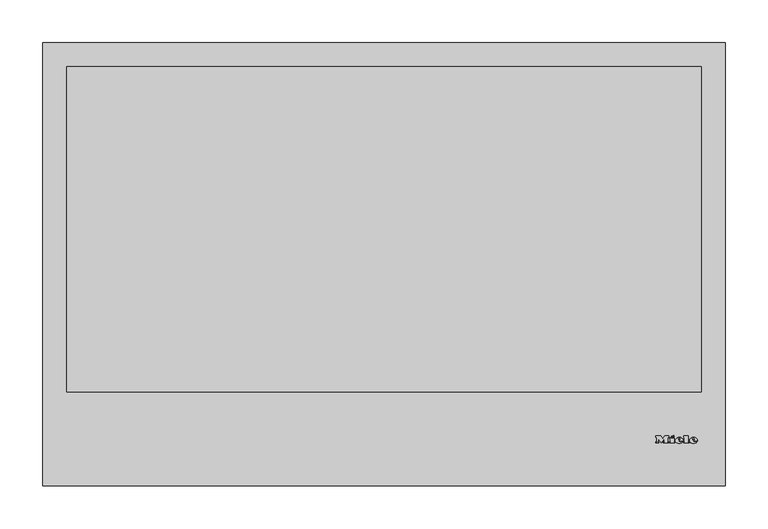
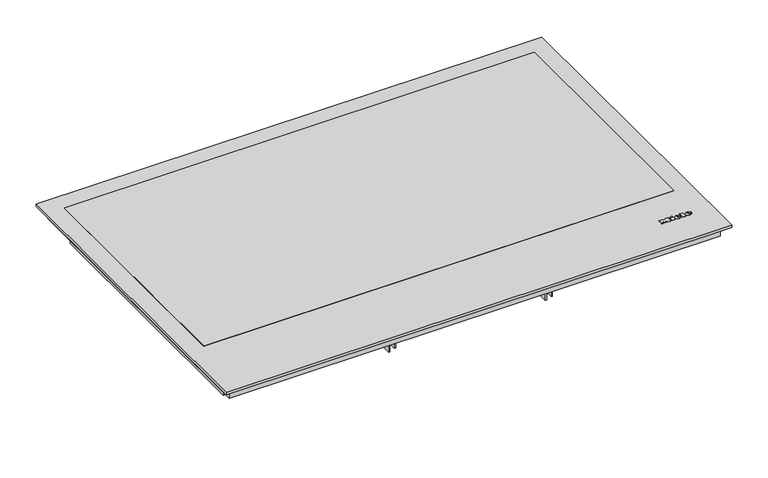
"""IFC4 building model written with IfcOpenShell, lengths in millimetres: proxy geometry, 12275750_DFS_KM7878-1FL : 26787873_DFS_12275750_KM7878-1FL."""

from ifc_helpers import new_model, si_unit, point, frame, frame_2d, origin, origin_with_axes, place, context, project, spatial, polyline, circle_curve, ellipse_curve, trimmed, segment, composite_curve, outline, extrude, source, transform, mapped, element, save
from ifc_brep_helpers import plane_surface, cylinder_surface, revolved_surface, extruded_surface, advanced_brep


def specialty_equipment_575d8ab1(model_context):
    return source(origin(), model_context, "Body", "SolidModel", [
        advanced_brep(
        [(362.06, 52.3948833, 4.4802537), (362.06, 53.2028828, 4.4811551), (367.412, 53.2028828, 4.4811551), (358.1, 53.2028828, 4.4811551), (360.3, 50.4988845, 4.4781386), (367.276, 52.3948833, 4.4802537), (364.86, 52.3948833, 4.4802537), (362.956, 51.4988838, 4.4792542), (362.06, 54.2268821, 4.4822974), (362.06, 55.0988816, 4.4832701), (363.428, 55.0988816, 4.4832701), (363.428, 54.2268821, 4.4822974), (362.06, 52.3959988, 3.4802543), (362.956, 51.4999994, 3.4792548), (364.86, 52.3959988, 3.4802543), (367.276, 52.3959988, 3.4802543), (360.3, 50.5, 3.4781393), (358.1, 53.2039983, 3.4811557), (367.412, 53.2039983, 3.4811557), (362.06, 53.2039983, 3.4811557), (362.06, 54.2279977, 3.482298), (363.428, 54.2279977, 3.482298), (363.428, 55.0999971, 3.4832707), (362.06, 55.0999971, 3.4832707)],
        [
            (0, 1),
            (1, 2),
            (2, 3, ellipse_curve(frame((362.756, 53.2028828, 4.4811551), z_axis=(0.0, -0.0011155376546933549, 0.9999993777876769), x_axis=(-1.0, 0.0, 0.0)), 4.656, 3.848)),
            (3, 4, circle_curve(frame((361.1960436, 53.4748826, 4.4814585), z_axis=(0.0, -0.0011155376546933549, 0.9999993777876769), x_axis=(0.0, -0.9999993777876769, -0.0011155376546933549)), 3.1079688)),
            (4, 5, circle_curve(frame((362.6627936, 55.5868813, 4.4838145), z_axis=(0.0, -0.0011155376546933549, 0.9999993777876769), x_axis=(0.0, -0.9999993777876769, -0.0011155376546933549)), 5.6098607)),
            (5, 6),
            (6, 7, circle_curve(frame((363.3470588, 53.1388828, 4.4810837), z_axis=(0.0, 0.0011155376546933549, -0.9999993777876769), x_axis=(0.0, -0.9999993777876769, -0.0011155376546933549)), 1.6859795)),
            (7, 0, circle_curve(frame((362.956, 52.3948833, 4.4802537), z_axis=(0.0, 0.0011155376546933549, -0.9999993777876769), x_axis=(0.0, -0.9999993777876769, -0.0011155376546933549)), 0.896)),
            (8, 9),
            (9, 10, circle_curve(frame((362.744, 55.0988816, 4.4832701), z_axis=(0.0, 0.0011155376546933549, -0.9999993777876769), x_axis=(0.0, -0.9999993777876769, -0.0011155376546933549)), 0.684)),
            (10, 11),
            (11, 8),
            (12, 13, circle_curve(frame((362.956, 52.3959988, 3.4802543), z_axis=(0.0, -0.0011155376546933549, 0.9999993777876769), x_axis=(0.0, -0.9999993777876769, -0.0011155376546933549)), 0.896)),
            (13, 14, circle_curve(frame((363.3470588, 53.1399984, 3.4810843), z_axis=(0.0, -0.0011155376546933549, 0.9999993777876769), x_axis=(0.0, -0.9999993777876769, -0.0011155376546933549)), 1.6859795)),
            (14, 15),
            (15, 16, circle_curve(frame((362.6627936, 55.5879968, 3.4838151), z_axis=(0.0, 0.0011155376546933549, -0.9999993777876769), x_axis=(0.0, -0.9999993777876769, -0.0011155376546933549)), 5.6098607)),
            (16, 17, circle_curve(frame((361.1960436, 53.4759981, 3.4814591), z_axis=(0.0, 0.0011155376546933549, -0.9999993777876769), x_axis=(0.0, -0.9999993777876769, -0.0011155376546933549)), 3.1079688)),
            (17, 18, ellipse_curve(frame((362.756, 53.2039983, 3.4811557), z_axis=(0.0, 0.0011155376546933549, -0.9999993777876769), x_axis=(-1.0, 0.0, 0.0)), 4.656, 3.848)),
            (18, 19),
            (19, 12),
            (20, 21),
            (21, 22),
            (22, 23, circle_curve(frame((362.744, 55.0999971, 3.4832707), z_axis=(0.0, -0.0011155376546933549, 0.9999993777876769), x_axis=(0.0, -0.9999993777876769, -0.0011155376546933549)), 0.684)),
            (23, 20),
            (0, 12),
            (19, 1),
            (18, 2),
            (5, 15),
            (14, 6),
            (17, 3),
            (13, 7),
            (16, 4),
            (8, 20),
            (23, 9),
            (22, 10),
            (21, 11),
        ],
        [
            plane_surface(frame((362.06, 53.2028828, 4.4811551), z_axis=(0.0, -0.0011155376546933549, 0.9999993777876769), x_axis=(0.0, 0.9999993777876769, 0.0011155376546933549))),
            plane_surface(frame((362.06, 53.2039983, 3.4811557), z_axis=(0.0, 0.0011155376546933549, -0.9999993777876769), x_axis=(0.0, -0.9999993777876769, -0.0011155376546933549))),
            plane_surface(frame((362.06, 52.3948833, 4.4802537), z_axis=(1.0000000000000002, 0.0, 0.0), x_axis=(0.0, 0.001115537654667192, -0.999999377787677))),
            plane_surface(frame((362.06, 53.2028828, 4.4811551), z_axis=(0.0, -0.999999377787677, -0.001115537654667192), x_axis=(0.0, 0.001115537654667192, -0.999999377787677))),
            plane_surface(frame((367.276, 52.3948833, 4.4802537), z_axis=(0.0, 0.999999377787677, 0.001115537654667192), x_axis=(0.0, 0.001115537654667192, -0.999999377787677))),
            extruded_surface(trimmed(ellipse_curve(frame((362.756, 53.2051139, 2.4811563), z_axis=(0.0, -0.0011155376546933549, 0.9999993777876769), x_axis=(-1.0, 0.0, 0.0)), 4.656, 3.848), [point((367.412, 53.2051139, 2.4811563))], [point((358.1, 53.2051139, 2.4811563))], True, "CARTESIAN"), (0.0, -0.001115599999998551, 0.9999994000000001), 1.00000002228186),
            revolved_surface(polyline([(363.3470588, 51.454019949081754, 3.479203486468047), (363.3470588, 51.45290441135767, 4.4792029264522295)]), (363.3470588, 53.1399984, 3.4810843), (0.0, 0.0011155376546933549, -0.9999993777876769)),
            revolved_surface(polyline([(362.956, 51.49999935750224, 3.4792547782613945), (362.956, 51.49888381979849, 4.479254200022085)]), (362.956, 52.3959988, 3.4802543), (0.0, 0.0011155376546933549, -0.9999993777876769)),
            cylinder_surface(frame((361.1960436, 53.4759981, 3.4814591), z_axis=(0.0, -0.0011155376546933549, 0.9999993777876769), x_axis=(0.0, -0.9999993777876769, -0.0011155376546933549)), 3.1079688),
            cylinder_surface(frame((362.6627936, 55.5879968, 3.4838151), z_axis=(0.0, -0.0011155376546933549, 0.9999993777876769), x_axis=(0.0, -0.9999993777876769, -0.0011155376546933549)), 5.6098607),
            plane_surface(frame((362.06, 54.2268821, 4.4822974), z_axis=(1.0000000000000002, 0.0, 0.0), x_axis=(0.0, 0.001115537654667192, -0.999999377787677))),
            revolved_surface(polyline([(362.744, 54.415997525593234, 3.4825076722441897), (362.744, 54.41488198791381, 4.482507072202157)]), (362.744, 55.0999971, 3.4832707), (0.0, 0.0011155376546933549, -0.9999993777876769)),
            plane_surface(frame((363.428, 55.0988816, 4.4832701), z_axis=(-1.0000000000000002, 0.0, 0.0), x_axis=(0.0, 0.001115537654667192, -0.999999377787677))),
            plane_surface(frame((363.428, 54.2268821, 4.4822974), z_axis=(0.0, 0.999999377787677, 0.001115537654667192), x_axis=(0.0, 0.001115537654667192, -0.999999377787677))),
        ],
        [
            (0, [[1, 2, 3, 4, 5, 6, 7, 8], [9, 10, 11, 12]]),
            (1, [[13, 14, 15, 16, 17, 18, 19, 20], [21, 22, 23, 24]]),
            (2, [[-1, 25, -20, 26]]),
            (3, [[-2, -26, -19, 27]]),
            (4, [[-6, 28, -15, 29]]),
            (5, [[-3, -27, -18, 30]]),
            (6, [[-7, -29, -14, 31]]),
            (7, [[-8, -31, -13, -25]]),
            (8, [[-4, -30, -17, 32]]),
            (9, [[-5, -32, -16, -28]]),
            (10, [[-9, 33, -24, 34]]),
            (11, [[-10, -34, -23, 35]]),
            (12, [[-11, -35, -22, 36]]),
            (13, [[-12, -36, -21, -33]]),
        ],
    ),
        advanced_brep(
        [(345.364, 52.3948833, 4.4802537), (345.364, 53.2028828, 4.4811551), (350.716, 53.2028828, 4.4811551), (341.404, 53.2028828, 4.4811551), (343.604, 50.4988845, 4.4781386), (350.58, 52.3948833, 4.4802537), (348.164, 52.3948833, 4.4802537), (346.26, 51.4988838, 4.4792542), (345.364, 54.2268821, 4.4822974), (345.364, 55.0988816, 4.4832701), (346.732, 55.0988816, 4.4832701), (346.732, 54.2268821, 4.4822974), (345.364, 52.3959988, 3.4802543), (346.26, 51.4999994, 3.4792548), (348.164, 52.3959988, 3.4802543), (350.58, 52.3959988, 3.4802543), (343.604, 50.5, 3.4781393), (341.404, 53.2039983, 3.4811557), (350.716, 53.2039983, 3.4811557), (345.364, 53.2039983, 3.4811557), (345.364, 54.2279977, 3.482298), (346.732, 54.2279977, 3.482298), (346.732, 55.0999971, 3.4832707), (345.364, 55.0999971, 3.4832707)],
        [
            (0, 1),
            (1, 2),
            (2, 3, ellipse_curve(frame((346.06, 53.2028828, 4.4811551), z_axis=(0.0, -0.0011155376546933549, 0.9999993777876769), x_axis=(-1.0, 0.0, 0.0)), 4.656, 3.848)),
            (3, 4, circle_curve(frame((344.5000436, 53.4748826, 4.4814585), z_axis=(0.0, -0.0011155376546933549, 0.9999993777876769), x_axis=(0.0, -0.9999993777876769, -0.0011155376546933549)), 3.1079688)),
            (4, 5, circle_curve(frame((345.9667936, 55.5868813, 4.4838145), z_axis=(0.0, -0.0011155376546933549, 0.9999993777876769), x_axis=(0.0, -0.9999993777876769, -0.0011155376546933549)), 5.6098607)),
            (5, 6),
            (6, 7, circle_curve(frame((346.6510588, 53.1388828, 4.4810837), z_axis=(0.0, 0.0011155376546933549, -0.9999993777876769), x_axis=(0.0, -0.9999993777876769, -0.0011155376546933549)), 1.6859795)),
            (7, 0, circle_curve(frame((346.26, 52.3948833, 4.4802537), z_axis=(0.0, 0.0011155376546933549, -0.9999993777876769), x_axis=(0.0, -0.9999993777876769, -0.0011155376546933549)), 0.896)),
            (8, 9),
            (9, 10, circle_curve(frame((346.048, 55.0988816, 4.4832701), z_axis=(0.0, 0.0011155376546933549, -0.9999993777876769), x_axis=(0.0, -0.9999993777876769, -0.0011155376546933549)), 0.684)),
            (10, 11),
            (11, 8),
            (12, 13, circle_curve(frame((346.26, 52.3959988, 3.4802543), z_axis=(0.0, -0.0011155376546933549, 0.9999993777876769), x_axis=(0.0, -0.9999993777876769, -0.0011155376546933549)), 0.896)),
            (13, 14, circle_curve(frame((346.6510588, 53.1399984, 3.4810843), z_axis=(0.0, -0.0011155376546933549, 0.9999993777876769), x_axis=(0.0, -0.9999993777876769, -0.0011155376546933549)), 1.6859795)),
            (14, 15),
            (15, 16, circle_curve(frame((345.9667936, 55.5879968, 3.4838151), z_axis=(0.0, 0.0011155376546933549, -0.9999993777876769), x_axis=(0.0, -0.9999993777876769, -0.0011155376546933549)), 5.6098607)),
            (16, 17, circle_curve(frame((344.5000436, 53.4759981, 3.4814591), z_axis=(0.0, 0.0011155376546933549, -0.9999993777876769), x_axis=(0.0, -0.9999993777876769, -0.0011155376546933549)), 3.1079688)),
            (17, 18, ellipse_curve(frame((346.06, 53.2039983, 3.4811557), z_axis=(0.0, 0.0011155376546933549, -0.9999993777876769), x_axis=(-1.0, 0.0, 0.0)), 4.656, 3.848)),
            (18, 19),
            (19, 12),
            (20, 21),
            (21, 22),
            (22, 23, circle_curve(frame((346.048, 55.0999971, 3.4832707), z_axis=(0.0, -0.0011155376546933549, 0.9999993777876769), x_axis=(0.0, -0.9999993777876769, -0.0011155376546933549)), 0.684)),
            (23, 20),
            (0, 12),
            (19, 1),
            (18, 2),
            (5, 15),
            (14, 6),
            (17, 3),
            (13, 7),
            (16, 4),
            (8, 20),
            (23, 9),
            (22, 10),
            (21, 11),
        ],
        [
            plane_surface(frame((345.364, 53.2028828, 4.4811551), z_axis=(0.0, -0.0011155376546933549, 0.9999993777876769), x_axis=(0.0, 0.9999993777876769, 0.0011155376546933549))),
            plane_surface(frame((345.364, 53.2039983, 3.4811557), z_axis=(0.0, 0.0011155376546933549, -0.9999993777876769), x_axis=(0.0, -0.9999993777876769, -0.0011155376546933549))),
            plane_surface(frame((345.364, 52.3948833, 4.4802537), z_axis=(1.0000000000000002, 0.0, 0.0), x_axis=(0.0, 0.001115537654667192, -0.999999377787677))),
            plane_surface(frame((345.364, 53.2028828, 4.4811551), z_axis=(0.0, -0.999999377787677, -0.001115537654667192), x_axis=(0.0, 0.001115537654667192, -0.999999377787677))),
            plane_surface(frame((350.58, 52.3948833, 4.4802537), z_axis=(0.0, 0.999999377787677, 0.001115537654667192), x_axis=(0.0, 0.001115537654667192, -0.999999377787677))),
            extruded_surface(trimmed(ellipse_curve(frame((346.06, 53.2051139, 2.4811563), z_axis=(0.0, -0.0011155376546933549, 0.9999993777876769), x_axis=(-1.0, 0.0, 0.0)), 4.656, 3.848), [point((350.716, 53.2051139, 2.4811563))], [point((341.404, 53.2051139, 2.4811563))], True, "CARTESIAN"), (0.0, -0.001115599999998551, 0.9999994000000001), 1.00000002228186),
            revolved_surface(polyline([(346.6510588, 51.454019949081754, 3.479203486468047), (346.6510588, 51.45290441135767, 4.4792029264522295)]), (346.6510588, 53.1399984, 3.4810843), (0.0, 0.0011155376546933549, -0.9999993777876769)),
            revolved_surface(polyline([(346.26, 51.49999935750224, 3.4792547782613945), (346.26, 51.49888381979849, 4.479254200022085)]), (346.26, 52.3959988, 3.4802543), (0.0, 0.0011155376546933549, -0.9999993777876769)),
            cylinder_surface(frame((344.5000436, 53.4759981, 3.4814591), z_axis=(0.0, -0.0011155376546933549, 0.9999993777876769), x_axis=(0.0, -0.9999993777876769, -0.0011155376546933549)), 3.1079688),
            cylinder_surface(frame((345.9667936, 55.5879968, 3.4838151), z_axis=(0.0, -0.0011155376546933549, 0.9999993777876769), x_axis=(0.0, -0.9999993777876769, -0.0011155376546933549)), 5.6098607),
            plane_surface(frame((345.364, 54.2268821, 4.4822974), z_axis=(1.0000000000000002, 0.0, 0.0), x_axis=(0.0, 0.001115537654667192, -0.999999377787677))),
            revolved_surface(polyline([(346.048, 54.415997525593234, 3.4825076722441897), (346.048, 54.41488198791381, 4.482507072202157)]), (346.048, 55.0999971, 3.4832707), (0.0, 0.0011155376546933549, -0.9999993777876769)),
            plane_surface(frame((346.732, 55.0988816, 4.4832701), z_axis=(-1.0000000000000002, 0.0, 0.0), x_axis=(0.0, 0.001115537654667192, -0.999999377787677))),
            plane_surface(frame((346.732, 54.2268821, 4.4822974), z_axis=(0.0, 0.999999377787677, 0.001115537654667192), x_axis=(0.0, 0.001115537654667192, -0.999999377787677))),
        ],
        [
            (0, [[1, 2, 3, 4, 5, 6, 7, 8], [9, 10, 11, 12]]),
            (1, [[13, 14, 15, 16, 17, 18, 19, 20], [21, 22, 23, 24]]),
            (2, [[-1, 25, -20, 26]]),
            (3, [[-2, -26, -19, 27]]),
            (4, [[-6, 28, -15, 29]]),
            (5, [[-3, -27, -18, 30]]),
            (6, [[-7, -29, -14, 31]]),
            (7, [[-8, -31, -13, -25]]),
            (8, [[-4, -30, -17, 32]]),
            (9, [[-5, -32, -16, -28]]),
            (10, [[-9, 33, -24, 34]]),
            (11, [[-10, -34, -23, 35]]),
            (12, [[-11, -35, -22, 36]]),
            (13, [[-12, -36, -21, -33]]),
        ],
    ),
        extrude(outline(polyline([(0.0, 0.0), (-0.0109086, -2.9993294), (-1.4390415, -2.9920868), (-1.4315307, 0.0), (0.0, 0.0)])), frame((336.62, 58.0279953, 3.486537), z_axis=(0.0, -0.001115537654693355, 0.999999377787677), x_axis=(-0.4247202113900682, 0.9053240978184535, 0.0010099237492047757)), (0.0, 0.0, 1.0), 1.0),
        extrude(outline(polyline([(-0.4933908, 2.4141097), (-2.7800844, -2.4601583), (-7.0459741, -0.4588767), (-7.4401145, -1.299018), (-8.6568709, -0.728194), (-5.9760369, 4.9862153), (-4.7592805, 4.4153913), (-5.1636142, 3.5535222), (-2.1941493, 2.1604399), (-1.7898157, 3.022309), (-0.4933908, 2.4141097)])), frame((336.62, 58.0279953, 3.486537), z_axis=(0.0, -0.001115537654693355, 0.999999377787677), x_axis=(-0.4247202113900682, 0.9053240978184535, 0.0010099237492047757)), (0.0, 0.0, 1.0), 1.0),
        extrude(outline(polyline([(0.0, 0.0), (0.0, -1.304), (-5.504, -1.304), (-5.504, 5.3519999), (-6.488, 5.3519999), (-6.488, 6.696), (0.0, 6.696), (0.0, 5.3519999), (-0.96, 5.3519999), (-0.96, 0.0), (0.0, 0.0)])), frame((351.164, 57.1959958, 3.4856089), z_axis=(0.0, -0.0011155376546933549, 0.9999993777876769), x_axis=(-1.0, 0.0, 0.0)), (0.0, 0.0, 1.0), 1.0),
        extrude(outline(polyline([(0.0, 0.0), (0.0, -1.304), (-5.576, -1.304), (-7.92, 1.696), (-10.256, -1.304), (-15.128, -1.304), (-15.128, 0.0), (-14.112, 0.0), (-14.112, 5.3519999), (-15.128, 5.3519999), (-15.128, 6.696), (-8.744, 6.696), (-8.744, 5.3519999), (-9.728, 5.3519999), (-9.728, 1.8807777), (-6.136, 6.696), (-2.56, 1.9488752), (-2.56, 5.3519999), (-3.52, 5.3519999), (-3.52, 6.696), (0.0, 6.696), (0.0, 5.3519999), (-0.968, 5.3519999), (-0.968, 0.0), (0.0, 0.0)])), frame((318.7, 57.1959958, 3.4856089), z_axis=(0.0, -0.0011155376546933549, 0.9999993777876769), x_axis=(-1.0, 0.0, 0.0)), (0.0, 0.0, 1.0), 1.0),
        extrude(outline(polyline([(316.2772603, 459.5), (308.9, 459.5), (308.9, 460.7557039), (315.0215564, 460.7557039), (315.0215564, 464.0519266), (309.370889, 464.0519266), (309.370889, 465.3076304), (315.0215564, 465.3076304), (315.0215564, 468.2899271), (309.056963, 468.2899271), (309.056963, 469.545631), (316.2772603, 469.545631), (316.2772603, 459.5)])), frame((0.0, 0.0, -77.5), z_axis=(0.0, 0.0, 1.0), x_axis=(1.0, 0.0, 0.0)), (0.0, 0.0, 1.0), 1.0),
        extrude(outline(polyline([(307.0164442, 459.5), (300.7379248, 459.5), (300.7379248, 460.7557039), (305.7607403, 460.7557039), (305.7607403, 469.545631), (307.0164442, 469.545631), (307.0164442, 459.5)])), frame((0.0, 0.0, -77.5), z_axis=(0.0, 0.0, 1.0), x_axis=(1.0, 0.0, 0.0)), (0.0, 0.0, 1.0), 1.0),
        extrude(outline(polyline([(14.0, -27.0), (14.0, -16.8), (58.0, -16.8), (58.0, -43.0), (30.0, -43.0), (30.0, -27.0), (14.0, -27.0)])), frame((122.6666667, 0.0, 0.0), z_axis=(1.0, 0.0, 0.0), x_axis=(0.0, 1.0, 0.0)), (0.0, 0.0, 1.0), 2.0),
        extrude(outline(polyline([(478.0, -16.8), (506.0, -16.8), (506.0, -27.0), (490.0, -27.0), (490.0, -43.0), (478.0, -43.0), (478.0, -16.8)])), frame((122.6666667, 0.0, 0.0), z_axis=(1.0, 0.0, 0.0), x_axis=(0.0, 1.0, 0.0)), (0.0, 0.0, 1.0), 2.0),
        extrude(outline(polyline([(14.0, -27.0), (14.0, -16.8), (58.0, -16.8), (58.0, -43.0), (30.0, -43.0), (30.0, -27.0), (14.0, -27.0)])), frame((-125.6666667, 0.0, 0.0), z_axis=(1.0, 0.0, 0.0), x_axis=(0.0, 1.0, 0.0)), (0.0, 0.0, 1.0), 2.0),
        extrude(outline(polyline([(490.0, -27.0), (490.0, -43.0), (478.0, -43.0), (478.0, -16.8), (506.0, -16.8), (506.0, -27.0), (490.0, -27.0)])), frame((-125.6666667, 0.0, 0.0), z_axis=(1.0, 0.0, 0.0), x_axis=(0.0, 1.0, 0.0)), (0.0, 0.0, 1.0), 2.0),
        extrude(outline(polyline([(371.0, 478.0), (371.0, 58.0), (-371.0, 58.0), (-371.0, 478.0), (371.0, 478.0)])), frame((0.0, 0.0, -46.5), z_axis=(0.0, 0.0, 1.0), x_axis=(1.0, 0.0, 0.0)), (0.0, 0.0, 1.0), 29.7),
        extrude(outline(polyline([(400.0, 520.0), (400.0, 0.0), (-400.0, 0.0), (-400.0, 520.0), (400.0, 520.0)])), origin_with_axes(), (0.0, 0.0, 1.0), 4.0),
        extrude(outline(polyline([(388.5, 508.5), (388.5, 11.5), (-388.5, 11.5), (-388.5, 508.5), (388.5, 508.5)])), frame((0.0, 0.0, -16.8), z_axis=(0.0, 0.0, 1.0), x_axis=(1.0, 0.0, 0.0)), (0.0, 0.0, 1.0), 16.8),
        extrude(outline(composite_curve([segment(trimmed(circle_curve(frame_2d((308.9, 464.5)), 7.5), [point((308.9, 472.0))], [point((308.9, 457.0))], False, "CARTESIAN"), True, "CONTINUOUS"), segment(trimmed(circle_curve(frame_2d((308.9, 464.5)), 7.5), [point((308.9, 457.0))], [point((308.9, 472.0))], False, "CARTESIAN"), True, "CONTINUOUS")], self_intersect=False)), frame((0.0, 0.0, -76.5), z_axis=(0.0, 0.0, 1.0), x_axis=(1.0, 0.0, 0.0)), (0.0, 0.0, 1.0), 30.0),
        extrude(outline(polyline([(372.0, 492.05), (372.0, 110.55), (-372.0, 110.55), (-372.0, 492.05), (372.0, 492.05)])), frame((0.0, 0.0, 4.0), z_axis=(0.0, 0.0, 1.0), x_axis=(1.0, 0.0, 0.0)), (0.0, 0.0, 1.0), 1.0),
        extrude(outline(composite_curve([segment(trimmed(circle_curve(frame_2d((-381.0, 80.0)), 3.0), [point((-381.0, 83.0))], [point((-381.0, 77.0))], False, "CARTESIAN"), True, "CONTINUOUS"), segment(trimmed(circle_curve(frame_2d((-381.0, 80.0)), 3.0), [point((-381.0, 77.0))], [point((-381.0, 83.0))], False, "CARTESIAN"), True, "CONTINUOUS")], self_intersect=False)), frame((0.0, 0.0, -22.0), z_axis=(0.0, 0.0, 1.0), x_axis=(1.0, 0.0, 0.0)), (0.0, 0.0, 1.0), 5.2),
        extrude(outline(composite_curve([segment(trimmed(circle_curve(frame_2d((381.0, 440.0)), 3.0), [point((381.0, 443.0))], [point((381.0, 437.0))], False, "CARTESIAN"), True, "CONTINUOUS"), segment(trimmed(circle_curve(frame_2d((381.0, 440.0)), 3.0), [point((381.0, 437.0))], [point((381.0, 443.0))], False, "CARTESIAN"), True, "CONTINUOUS")], self_intersect=False)), frame((0.0, 0.0, -22.0), z_axis=(0.0, 0.0, 1.0), x_axis=(1.0, 0.0, 0.0)), (0.0, 0.0, 1.0), 5.2),
    ])


if __name__ == "__main__":
    model = new_model("IFC4")
    model_context = context("Model", 3, world=origin())
    ifc_project = project(units=[si_unit("LENGTHUNIT", "METRE", prefix="MILLI")], contexts=[model_context])
    site = spatial("IfcSite", under=ifc_project)
    building = spatial("IfcBuilding", under=site)
    placement = place(None, origin())
    specialty_equipment_shape = specialty_equipment_575d8ab1(model_context)
    element("IfcBuildingElementProxy", 1, Name="12275750_DFS_KM7878-1FL : 26787873_DFS_12275750_KM7878-1FL", ObjectType="12275750_DFS_KM7878-1FL : 26787873_DFS_12275750_KM7878-1FL", at=placement, inside=building, context=model_context, shape_type="MappedRepresentation", body=[
        mapped(specialty_equipment_shape, transform((0.0, 0.0, 0.0), x_axis=(1.0, 0.0, 0.0), y_axis=(0.0, 1.0, 0.0), z_axis=(0.0, 0.0, 1.0))),
    ])
    save(model, "model.ifc")
